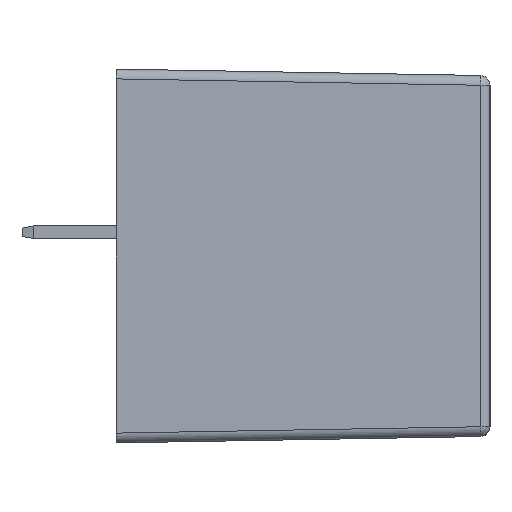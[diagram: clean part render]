
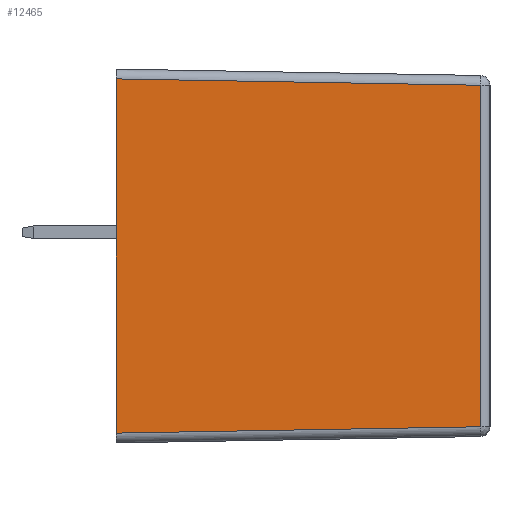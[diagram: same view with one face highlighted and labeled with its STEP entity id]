
A CAD part, left-side view. The second image highlights one B-rep face of the part: STEP entity #12465.
In plain terms, the highlighted planar face has unit normal (-1, -0.018, 0).
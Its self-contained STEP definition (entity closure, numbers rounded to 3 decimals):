
#831 = DIRECTION ( 'NONE',  ( 0.017, -1., 0. ) ) ;
#1620 = CARTESIAN_POINT ( 'NONE',  ( -16.217, -13.074, 9.525 ) ) ;
#2879 = CARTESIAN_POINT ( 'NONE',  ( -16.541, 5.485, 9.025 ) ) ;
#3775 = LINE ( 'NONE', #24960, #23751 ) ;
#3875 = FACE_OUTER_BOUND ( 'NONE', #23488, .T. ) ;
#4282 = EDGE_CURVE ( 'NONE', #21018, #27695, #19354, .T. ) ;
#4380 = LINE ( 'NONE', #1620, #24736 ) ;
#5096 = EDGE_CURVE ( 'NONE', #21018, #29889, #3775, .T. ) ;
#5882 = PLANE ( 'NONE',  #21504 ) ;
#7571 = ORIENTED_EDGE ( 'NONE', *, *, #5096, .T. ) ;
#8505 = ORIENTED_EDGE ( 'NONE', *, *, #23150, .T. ) ;
#8851 = VECTOR ( 'NONE', #19974, 1000. ) ;
#10739 = CARTESIAN_POINT ( 'NONE',  ( -16.541, 5.485, 9.525 ) ) ;
#10911 = ORIENTED_EDGE ( 'NONE', *, *, #22707, .T. ) ;
#12465 = ADVANCED_FACE ( 'NONE', ( #3875 ), #5882, .T. ) ;
#12857 = DIRECTION ( 'NONE',  ( 0., 0., -1. ) ) ;
#13111 = VECTOR ( 'NONE', #26505, 1000. ) ;
#13549 = VERTEX_POINT ( 'NONE', #14209 ) ;
#13904 = DIRECTION ( 'NONE',  ( 0., 0., 1. ) ) ;
#14209 = CARTESIAN_POINT ( 'NONE',  ( -16.217, -13.074, -8.701 ) ) ;
#14683 = CARTESIAN_POINT ( 'NONE',  ( -16.217, -13.074, 8.701 ) ) ;
#19354 = LINE ( 'NONE', #29344, #8851 ) ;
#19520 = CARTESIAN_POINT ( 'NONE',  ( -16.541, 5.485, -9.025 ) ) ;
#19974 = DIRECTION ( 'NONE',  ( 0.017, -1., -0.017 ) ) ;
#20279 = LINE ( 'NONE', #19520, #13111 ) ;
#21018 = VERTEX_POINT ( 'NONE', #2879 ) ;
#21504 = AXIS2_PLACEMENT_3D ( 'NONE', #10739, #27564, #831 ) ;
#22707 = EDGE_CURVE ( 'NONE', #29889, #13549, #20279, .T. ) ;
#23150 = EDGE_CURVE ( 'NONE', #13549, #27695, #4380, .T. ) ;
#23488 = EDGE_LOOP ( 'NONE', ( #7571, #10911, #8505, #25710 ) ) ;
#23751 = VECTOR ( 'NONE', #12857, 1000. ) ;
#24736 = VECTOR ( 'NONE', #13904, 1000. ) ;
#24960 = CARTESIAN_POINT ( 'NONE',  ( -16.541, 5.485, 9.525 ) ) ;
#25710 = ORIENTED_EDGE ( 'NONE', *, *, #4282, .F. ) ;
#26505 = DIRECTION ( 'NONE',  ( 0.017, -1., 0.017 ) ) ;
#27564 = DIRECTION ( 'NONE',  ( -1., -0.017, 0. ) ) ;
#27695 = VERTEX_POINT ( 'NONE', #14683 ) ;
#29344 = CARTESIAN_POINT ( 'NONE',  ( -16.541, 5.494, 9.025 ) ) ;
#29889 = VERTEX_POINT ( 'NONE', #30273 ) ;
#30273 = CARTESIAN_POINT ( 'NONE',  ( -16.541, 5.485, -9.025 ) ) ;
